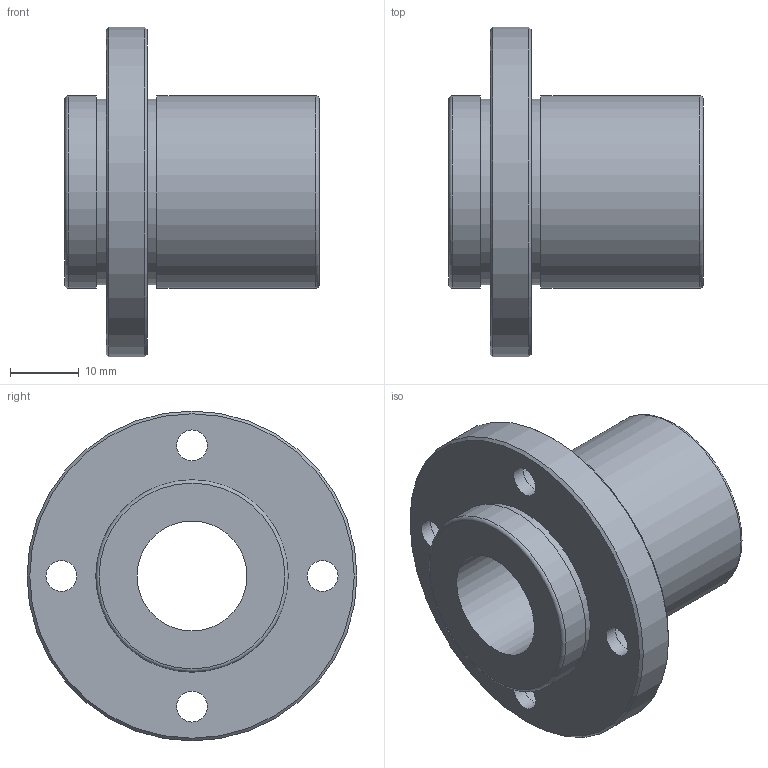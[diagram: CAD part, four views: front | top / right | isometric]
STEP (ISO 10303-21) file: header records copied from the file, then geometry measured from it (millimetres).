
FILE_DESCRIPTION(('STEP AP203'),'1');
FILE_NAME('//192.168.1.1/share/s-4 技術開発/s-4-4_CAD/s-4-4-3_見直し済み/002 修正済み/NFID-V/NFID-V_TOP/NFID-16VUU.step','2022-03-08T02:19:02',(' '),(' '),'Spatial InterOp 3D',' ',' ');
FILE_SCHEMA(('CONFIG_CONTROL_DESIGN'));
Length unit declared in the file: millimetre
Products named in the file (1): 1
Bounding box: 37 x 48 x 48 mm (x, y, z)
Volume: 21506.7 mm3; surface area: 9130 mm2
Topology: 1 solids, 1 shells, 28 faces, 56 edges, 38 vertices
Faces by surface type: cylinder 14, plane 10, torus 2, cone 2
Full cylindrical faces by diameter (mm): 4.5 x4, 7.5 x4, 16 x1, 27 x2, 28 x2, 48 x1
Entity records: 668 total; most frequent: DIRECTION 122, CARTESIAN_POINT 93, EDGE_LOOP 64, ORIENTED_EDGE 64, AXIS2_PLACEMENT_3D 61, FACE_OUTER_BOUND 44, EDGE_CURVE 32, VERTEX_POINT 32
